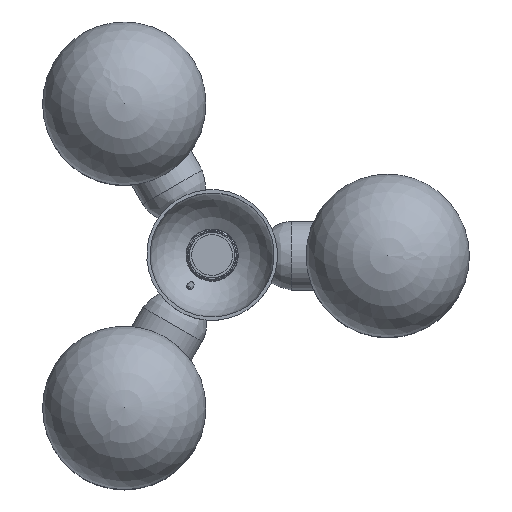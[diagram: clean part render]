
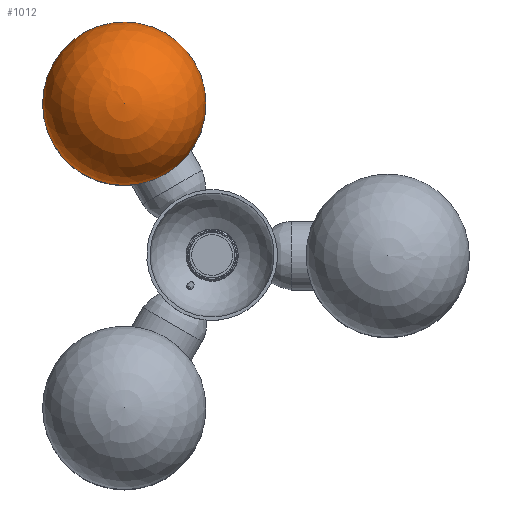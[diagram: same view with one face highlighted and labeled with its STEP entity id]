
A CAD part, top view. The second image highlights one B-rep face of the part: STEP entity #1012.
In plain terms, the highlighted spherical face has radius 50 mm.
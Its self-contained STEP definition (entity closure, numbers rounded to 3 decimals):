
#13=SPHERICAL_SURFACE('',#1165,50.);
#238=FACE_OUTER_BOUND('',#330,.T.);
#330=EDGE_LOOP('',(#778,#779,#780,#781));
#413=CIRCLE('',#1160,50.);
#415=CIRCLE('',#1162,50.);
#416=CIRCLE('',#1166,50.);
#491=VERTEX_POINT('',#1776);
#492=VERTEX_POINT('',#1777);
#496=VERTEX_POINT('',#3119);
#593=EDGE_CURVE('',#491,#492,#413,.T.);
#596=EDGE_CURVE('',#492,#491,#415,.T.);
#600=EDGE_CURVE('',#496,#492,#416,.T.);
#778=ORIENTED_EDGE('',*,*,#593,.T.);
#779=ORIENTED_EDGE('',*,*,#600,.F.);
#780=ORIENTED_EDGE('',*,*,#600,.T.);
#781=ORIENTED_EDGE('',*,*,#596,.T.);
#1012=ADVANCED_FACE('',(#238),#13,.T.);
#1160=AXIS2_PLACEMENT_3D('',#1778,#1395,#1396);
#1162=AXIS2_PLACEMENT_3D('',#1782,#1400,#1401);
#1165=AXIS2_PLACEMENT_3D('',#3118,#1407,#1408);
#1166=AXIS2_PLACEMENT_3D('',#3120,#1409,#1410);
#1395=DIRECTION('center_axis',(0.,0.,
1.));
#1396=DIRECTION('ref_axis',(-0.866,-0.5,0.));
#1400=DIRECTION('center_axis',(0.,0.,
1.));
#1401=DIRECTION('ref_axis',(-0.866,-0.5,0.));
#1407=DIRECTION('center_axis',(0.,0.,
1.));
#1408=DIRECTION('ref_axis',(0.5,-0.866,0.));
#1409=DIRECTION('center_axis',(-0.866,-0.5,0.));
#1410=DIRECTION('ref_axis',(-0.5,0.866,0.));
#1776=CARTESIAN_POINT('',(-97.075,68.14,197.));
#1777=CARTESIAN_POINT('',(-78.774,136.441,197.));
#1778=CARTESIAN_POINT('Origin',(-53.774,93.14,197.));
#1782=CARTESIAN_POINT('Origin',(-53.774,93.14,197.));
#3118=CARTESIAN_POINT('Origin',(-53.774,93.14,197.));
#3119=CARTESIAN_POINT('',(-53.774,93.14,247.));
#3120=CARTESIAN_POINT('Origin',(-53.774,93.14,197.));
